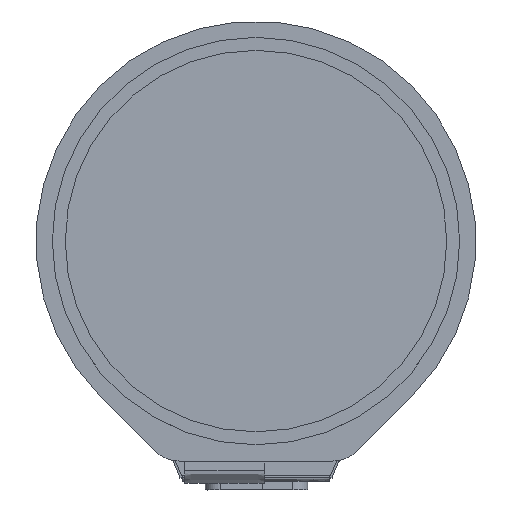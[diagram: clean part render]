
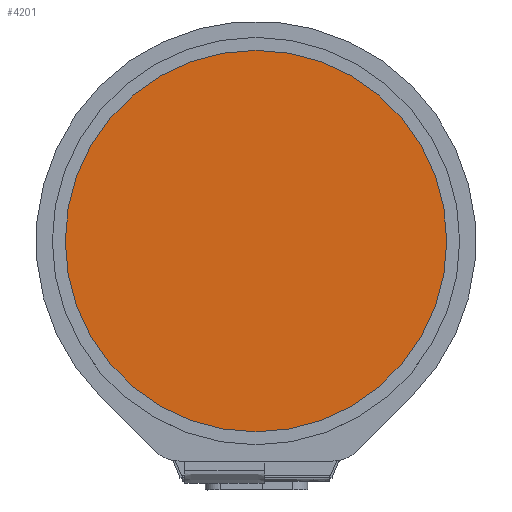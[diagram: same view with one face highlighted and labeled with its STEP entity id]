
A CAD part, top view. The second image highlights one B-rep face of the part: STEP entity #4201.
In plain terms, the highlighted planar face has unit normal (0, 0, 1).
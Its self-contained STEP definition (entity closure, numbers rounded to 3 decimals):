
#2994=CARTESIAN_POINT('',(0.,0.,2.));
#2995=DIRECTION('',(0.,0.,1.));
#2996=DIRECTION('',(-1.,0.,0.));
#2997=AXIS2_PLACEMENT_3D('',#2994,#2995,#2996);
#3009=CARTESIAN_POINT('',(0.,0.,2.));
#3010=DIRECTION('',(0.,0.,1.));
#3011=DIRECTION('',(1.,0.,0.));
#3012=AXIS2_PLACEMENT_3D('',#3009,#3010,#3011);
#3638=CARTESIAN_POINT('',(-16.7,0.,2.));
#3639=CARTESIAN_POINT('',(16.7,0.,2.));
#3640=VERTEX_POINT('',#3638);
#3641=VERTEX_POINT('',#3639);
#4191=CARTESIAN_POINT('',(0.,0.,2.));
#4192=DIRECTION('',(0.,0.,1.));
#4193=DIRECTION('',(1.,0.,0.));
#4194=AXIS2_PLACEMENT_3D('',#4191,#4192,#4193);
#4195=PLANE('',#4194);
#4196=ORIENTED_EDGE('',*,*,#4181,.F.);
#4198=ORIENTED_EDGE('',*,*,#4197,.F.);
#4199=EDGE_LOOP('',(#4196,#4198));
#4200=FACE_OUTER_BOUND('',#4199,.F.);
#4201=ADVANCED_FACE('',(#4200),#4195,.T.);
#2998=CIRCLE('',#2997,16.7);
#3013=CIRCLE('',#3012,16.7);
#4181=EDGE_CURVE('',#3640,#3641,#2998,.T.);
#4197=EDGE_CURVE('',#3641,#3640,#3013,.T.);
